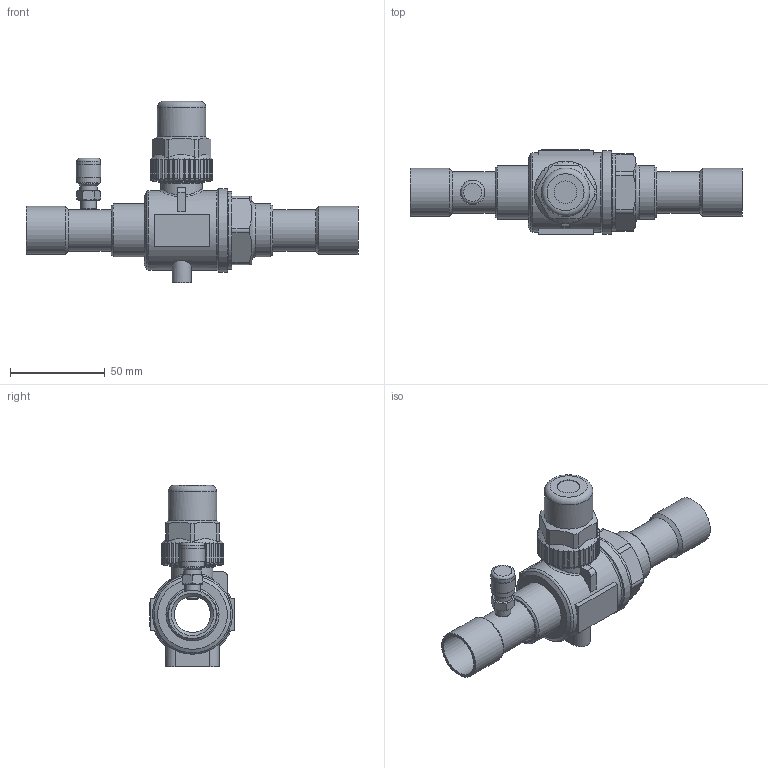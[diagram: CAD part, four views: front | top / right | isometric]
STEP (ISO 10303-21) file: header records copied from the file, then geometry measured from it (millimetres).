
FILE_DESCRIPTION(/* description */ (''),/* implementation_level */ '2;1');
FILE_NAME(/* name */ '6590_7A',/* time_stamp */ '2004-10-13T08:51:24+02:00',/* author */ (''),/* organization */ (''),/* preprocessor_version */ 'ST-DEVELOPER v9',/* originating_system */ 'EDS PLM SOLUTIONS - UNIGRAPHICS NX 1.0',/* authorisation */ '');
FILE_SCHEMA (('AUTOMOTIVE_DESIGN { 1 0 10303 214 0 1 1 1 }'));
Length unit declared in the file: millimetre
Products named in the file (9): 009079; 008543; 008090; 001703; 008720; 005140; 008549; 008574; 6590_7A
Assembly tree (9 placements, depth 3):
  6590_7A
    008574
      008543
    005140  x2
    008549
      009079
    008720
    001703
    008090
Bounding box: 175 x 44.5 x 95.5 mm (x, y, z)
Volume: 89565.7 mm3; surface area: 44757.1 mm2
Topology: 2 solids, 3 shells, 445 faces, 1152 edges, 748 vertices
Faces by surface type: plane 224, cylinder 149, cone 53, torus 12, extrusion 4, sphere 2, bspline 1
Full cylindrical faces by diameter (mm): 3.85 x1, 4.3 x2, 4.6 x1, 5.4 x1, 5.9 x1, 8.2 x1, 8.7 x1, 9.1 x2, 11.05 x1, 11.113 x1, 12 x1, 12.5 x2, 13 x1, 15.5 x1, 19 x4, 22 x3, 22.4 x2, 24 x1, 25.4 x2, 25.5 x1, 28 x2, 28.95 x2, 33.5 x1, 34.55 x1, 36 x1, 36.5 x1, 41 x1, 42 x1, 44 x1
Entity records: 14838 total; most frequent: CARTESIAN_POINT 3687, ORIENTED_EDGE 2050, DIRECTION 2048, EDGE_CURVE 1025, AXIS2_PLACEMENT_3D 791, VERTEX_POINT 714, EDGE_LOOP 575, VECTOR 466
